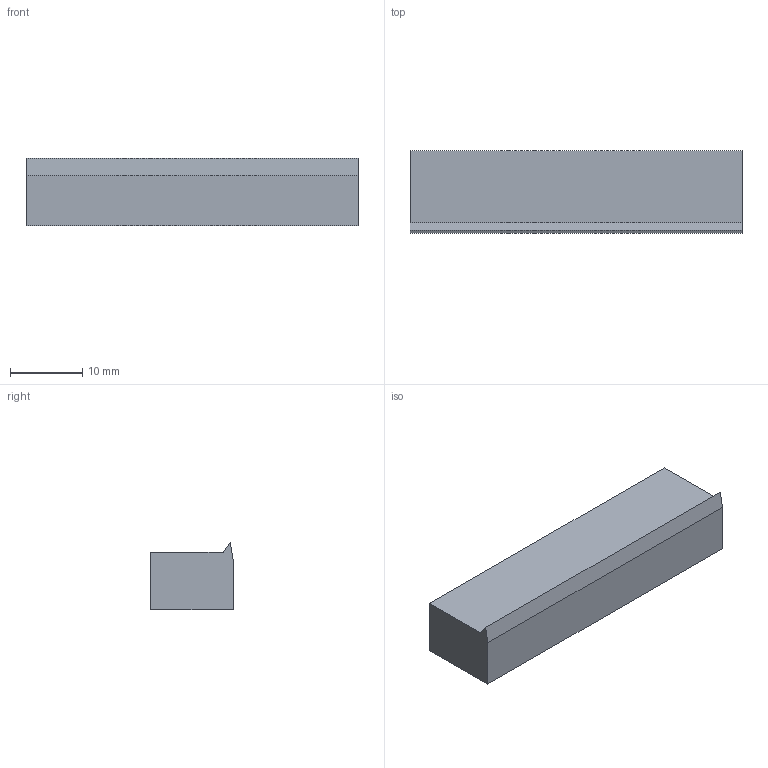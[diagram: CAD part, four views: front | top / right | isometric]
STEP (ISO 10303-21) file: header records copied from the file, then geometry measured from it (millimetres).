
FILE_DESCRIPTION(('Open CASCADE Model'),'2;1');
FILE_NAME('Open CASCADE Shape Model','2026-10-16T00:41:01',('Author'),( 'Open CASCADE'),'Open CASCADE STEP processor 7.9','Open CASCADE 7.9' ,'Unknown');
FILE_SCHEMA(('AUTOMOTIVE_DESIGN { 1 0 10303 214 1 1 1 1 }'));
Length unit declared in the file: millimetre
Products named in the file (1): Open CASCADE STEP translator 7.9 9
Bounding box: 46 x 11.4 x 9.4 mm (x, y, z)
Volume: 4231.1 mm3; surface area: 2049.4 mm2
Topology: 1 solids, 1 shells, 8 faces, 18 edges, 12 vertices
Faces by surface type: plane 8
Entity records: 466 total; most frequent: CARTESIAN_POINT 75, DIRECTION 72, LINE 54, VECTOR 54, ORIENTED_EDGE 36, PCURVE 36, DEFINITIONAL_REPRESENTATION 36, EDGE_CURVE 18
